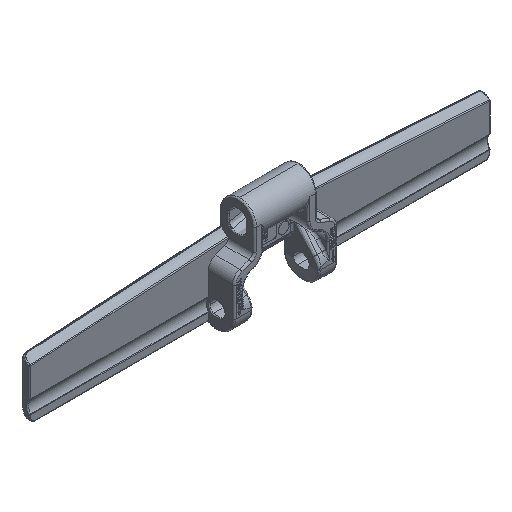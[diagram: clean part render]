
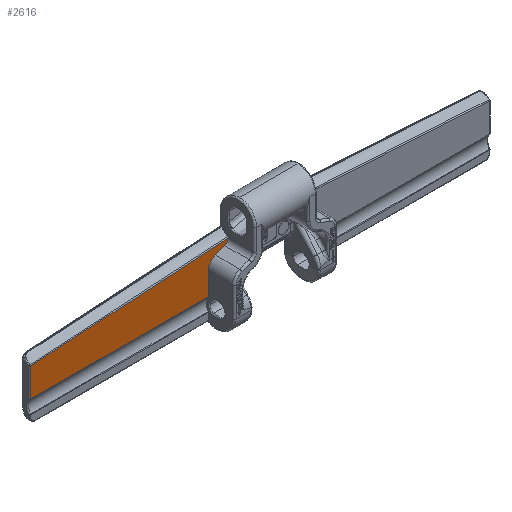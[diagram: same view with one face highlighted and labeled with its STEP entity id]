
A CAD part, isometric view. The second image highlights one B-rep face of the part: STEP entity #2616.
In plain terms, the highlighted planar face has unit normal (0, -1, 0).
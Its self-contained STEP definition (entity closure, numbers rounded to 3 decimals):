
#316 = CARTESIAN_POINT ( 'NONE',  ( -24.552, 4.7, -16.068 ) ) ;
#413 = CARTESIAN_POINT ( 'NONE',  ( -28.5, 4.7, -33.937 ) ) ;
#595 = EDGE_CURVE ( 'NONE', #15150, #8181, #19855, .T. ) ;
#1443 = VERTEX_POINT ( 'NONE', #7424 ) ;
#1524 = CARTESIAN_POINT ( 'NONE',  ( -17.53, 4.7, -12.746 ) ) ;
#1779 = EDGE_LOOP ( 'NONE', ( #12713, #20092, #11301, #16887, #14206, #16950, #10861 ) ) ;
#1991 = LINE ( 'NONE', #8921, #10001 ) ;
#2616 = ADVANCED_FACE ( 'NONE', ( #20583 ), #5686, .T. ) ;
#2707 = CARTESIAN_POINT ( 'NONE',  ( 114.436, 4.7, 34.519 ) ) ;
#2761 = EDGE_CURVE ( 'NONE', #6850, #19117, #11192, .T. ) ;
#2810 = DIRECTION ( 'NONE',  ( -0.94, 0., -0.342 ) ) ;
#3294 =( BOUNDED_CURVE ( )  B_SPLINE_CURVE ( 3, ( #5146, #18289, #1524, #13425 ),
 .UNSPECIFIED., .F., .T. ) 
 B_SPLINE_CURVE_WITH_KNOTS ( ( 4, 4 ),
 ( 2.531, 3.729 ),
 .UNSPECIFIED. ) 
 CURVE ( )  GEOMETRIC_REPRESENTATION_ITEM ( )  RATIONAL_B_SPLINE_CURVE ( ( 1., 0.884, 0.884, 1. ) ) 
 REPRESENTATION_ITEM ( '' )  );
#3717 = EDGE_CURVE ( 'NONE', #16675, #5796, #13114, .T. ) ;
#4619 = CARTESIAN_POINT ( 'NONE',  ( -28.5, 4.7, -47.5 ) ) ;
#5146 = CARTESIAN_POINT ( 'NONE',  ( -19.474, 4.7, -14.22 ) ) ;
#5463 = DIRECTION ( 'NONE',  ( 0., -1., 0. ) ) ;
#5576 = CARTESIAN_POINT ( 'NONE',  ( 127., 4.7, 0. ) ) ;
#5654 = VECTOR ( 'NONE', #9811, 1000. ) ;
#5672 = CARTESIAN_POINT ( 'NONE',  ( -126.4, 4.7, -33.937 ) ) ;
#5686 = PLANE ( 'NONE',  #18446 ) ;
#5796 = VERTEX_POINT ( 'NONE', #413 ) ;
#6096 = DIRECTION ( 'NONE',  ( -0.998, 0., -0.061 ) ) ;
#6246 = EDGE_CURVE ( 'NONE', #1443, #15150, #21446, .T. ) ;
#6253 = CARTESIAN_POINT ( 'NONE',  ( -28.5, 4.7, -21.707 ) ) ;
#6787 = EDGE_CURVE ( 'NONE', #6850, #1443, #3294, .T. ) ;
#6850 = VERTEX_POINT ( 'NONE', #16844 ) ;
#7424 = CARTESIAN_POINT ( 'NONE',  ( -17.501, 4.7, -11.47 ) ) ;
#8181 = VERTEX_POINT ( 'NONE', #5672 ) ;
#8921 = CARTESIAN_POINT ( 'NONE',  ( -28.5, 4.7, -33.937 ) ) ;
#9401 = CARTESIAN_POINT ( 'NONE',  ( -27.003, 4.7, -16.96 ) ) ;
#9811 = DIRECTION ( 'NONE',  ( 0., 0., -1. ) ) ;
#10001 = VECTOR ( 'NONE', #20632, 1000. ) ;
#10295 = VECTOR ( 'NONE', #2810, 1000. ) ;
#10300 = VECTOR ( 'NONE', #14883, 1000. ) ;
#10594 = CARTESIAN_POINT ( 'NONE',  ( -126.4, 4.7, -18.131 ) ) ;
#10627 =( BOUNDED_CURVE ( )  B_SPLINE_CURVE ( 3, ( #19338, #11042, #9401, #21436 ),
 .UNSPECIFIED., .F., .T. ) 
 B_SPLINE_CURVE_WITH_KNOTS ( ( 4, 4 ),
 ( 4.712, 5.934 ),
 .UNSPECIFIED. ) 
 CURVE ( )  GEOMETRIC_REPRESENTATION_ITEM ( )  RATIONAL_B_SPLINE_CURVE ( ( 1., 0.879, 0.879, 1. ) ) 
 REPRESENTATION_ITEM ( '' )  );
#10861 = ORIENTED_EDGE ( 'NONE', *, *, #6246, .T. ) ;
#11042 = CARTESIAN_POINT ( 'NONE',  ( -28.5, 4.7, -19.098 ) ) ;
#11192 = LINE ( 'NONE', #2707, #10295 ) ;
#11301 = ORIENTED_EDGE ( 'NONE', *, *, #3717, .F. ) ;
#12713 = ORIENTED_EDGE ( 'NONE', *, *, #595, .T. ) ;
#13114 = LINE ( 'NONE', #4619, #10300 ) ;
#13425 = CARTESIAN_POINT ( 'NONE',  ( -17.501, 4.7, -11.47 ) ) ;
#14206 = ORIENTED_EDGE ( 'NONE', *, *, #2761, .F. ) ;
#14883 = DIRECTION ( 'NONE',  ( 0., 0., -1. ) ) ;
#15150 = VERTEX_POINT ( 'NONE', #10594 ) ;
#15294 = VECTOR ( 'NONE', #6096, 1000. ) ;
#15836 = DIRECTION ( 'NONE',  ( 0., 0., -1. ) ) ;
#16675 = VERTEX_POINT ( 'NONE', #6253 ) ;
#16844 = CARTESIAN_POINT ( 'NONE',  ( -19.474, 4.7, -14.22 ) ) ;
#16887 = ORIENTED_EDGE ( 'NONE', *, *, #17415, .T. ) ;
#16950 = ORIENTED_EDGE ( 'NONE', *, *, #6787, .T. ) ;
#17415 = EDGE_CURVE ( 'NONE', #16675, #19117, #10627, .T. ) ;
#17619 = EDGE_CURVE ( 'NONE', #8181, #5796, #1991, .T. ) ;
#18289 = CARTESIAN_POINT ( 'NONE',  ( -18.274, 4.7, -13.783 ) ) ;
#18446 = AXIS2_PLACEMENT_3D ( 'NONE', #5576, #5463, #15836 ) ;
#19117 = VERTEX_POINT ( 'NONE', #316 ) ;
#19338 = CARTESIAN_POINT ( 'NONE',  ( -28.5, 4.7, -21.707 ) ) ;
#19746 = CARTESIAN_POINT ( 'NONE',  ( -126.4, 4.7, -34.133 ) ) ;
#19855 = LINE ( 'NONE', #19746, #5654 ) ;
#20092 = ORIENTED_EDGE ( 'NONE', *, *, #17619, .T. ) ;
#20583 = FACE_OUTER_BOUND ( 'NONE', #1779, .T. ) ;
#20632 = DIRECTION ( 'NONE',  ( 1., 0., 0. ) ) ;
#21223 = CARTESIAN_POINT ( 'NONE',  ( 127.16, 4.7, -2.623 ) ) ;
#21436 = CARTESIAN_POINT ( 'NONE',  ( -24.552, 4.7, -16.068 ) ) ;
#21446 = LINE ( 'NONE', #21223, #15294 ) ;
